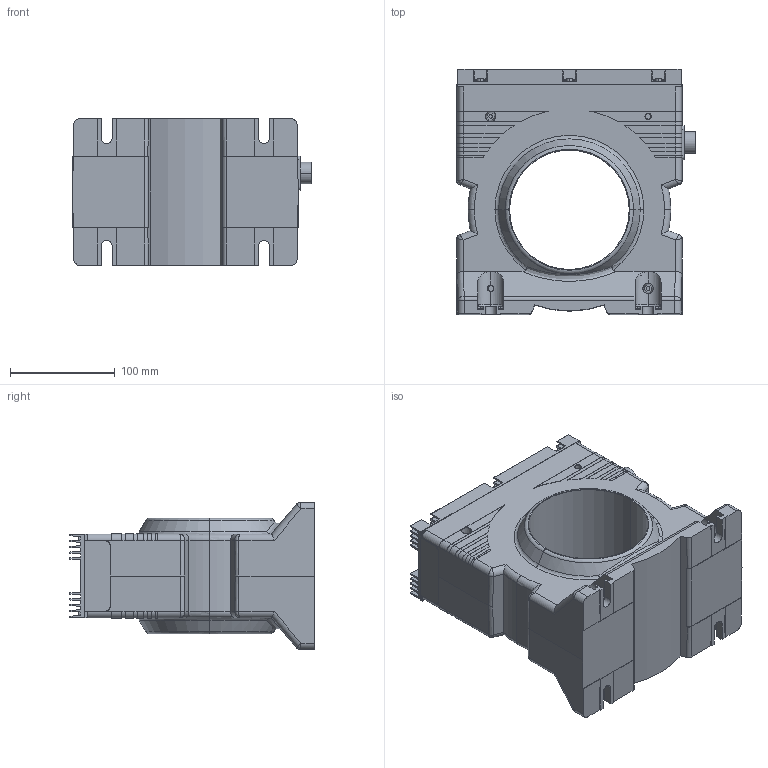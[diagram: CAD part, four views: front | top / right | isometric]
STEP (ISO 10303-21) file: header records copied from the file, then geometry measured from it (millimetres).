
FILE_DESCRIPTION(('CoCreate Modeling STEP Export'),'2;1');
FILE_NAME('LT 2000-S_SP45.stp','2011-09-06T13:03:22',(''),(''),'CoCreate Modeling STEP processor for AP214 (Solid Model)','CoCreate Modeling 17.00A 17-Jun-2010 (C) Parametric Technology GmbH','');
FILE_SCHEMA(('AUTOMOTIVE_DESIGN { 1 0 10303 214 1 1 1 1 }'));
Length unit declared in the file: millimetre
Products named in the file (19): boîtier.1; Refroidisseur; Rdl_pl_M3a; Rdl_pl_M3b; Rdl_pl_M3e; Rdl_pl_M3c; Rdl_pl_M3f; Vis_M3x8_F1; Vis_M3x8_F6; Vis_M3x8_F2; Rdl_pl_M3d; Vis_M3x8_F5; Vis_M3x8_F4; Vis_M3x8_F3; Visserie; refroidisseur.1; C-0206705-01-3; c-0206705-01-l-3d.stp; LT_2000_S_SP45
Assembly tree (18 placements, depth 4):
  LT_2000_S_SP45
    c-0206705-01-l-3d.stp
      C-0206705-01-3
    refroidisseur.1
      Visserie
        Vis_M3x8_F3
        Vis_M3x8_F4
        Vis_M3x8_F5
        Rdl_pl_M3d
        Vis_M3x8_F2
        Vis_M3x8_F6
        Vis_M3x8_F1
        Rdl_pl_M3f
        Rdl_pl_M3c
        Rdl_pl_M3e
        Rdl_pl_M3b
        Rdl_pl_M3a
      Refroidisseur
    boîtier.1
Bounding box: 227.53 x 234 x 140 mm (x, y, z)
Volume: 3271690.4 mm3; surface area: 310472.7 mm2
Topology: 15 solids, 31 shells, 1206 faces, 3083 edges, 1986 vertices
Faces by surface type: plane 592, cylinder 454, cone 62, torus 60, bspline 38
Entity records: 42394 total; most frequent: CARTESIAN_POINT 15044, ORIENTED_EDGE 6142, DIRECTION 4892, EDGE_CURVE 3071, VERTEX_POINT 1986, VECTOR 1640, LINE 1640, AXIS2_PLACEMENT_3D 1626
